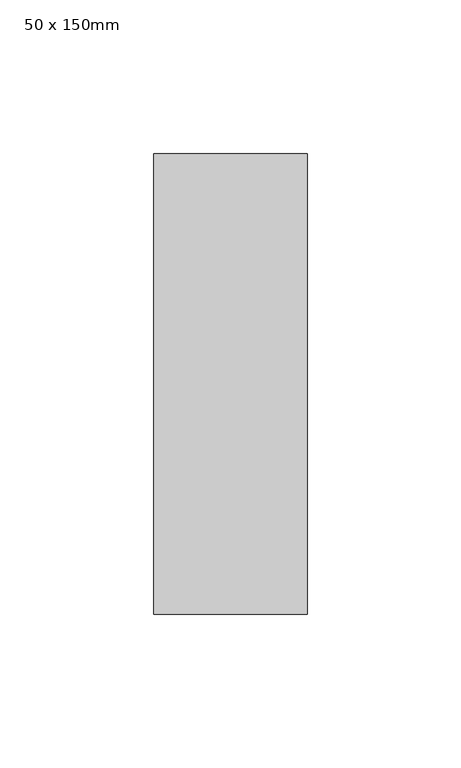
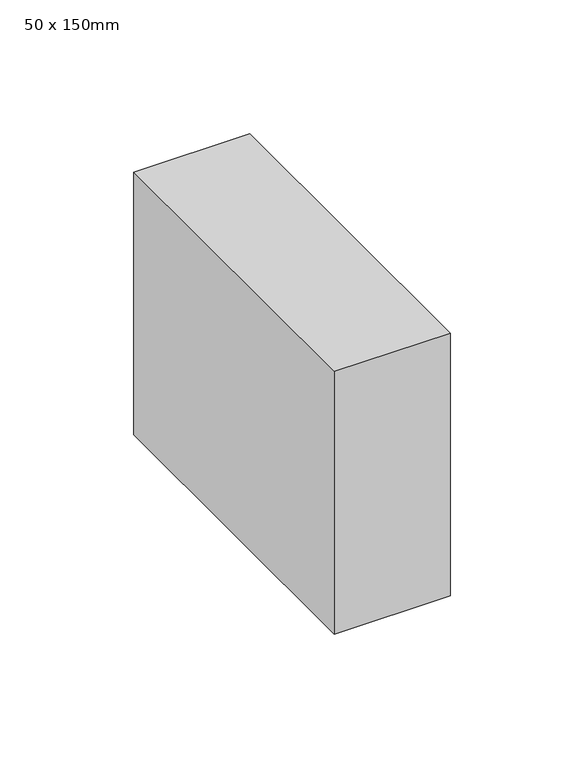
"""IFC4 building model written with IfcOpenShell, lengths in millimetres: member geometry, Прямоугольный импост : 50 x 150mm."""

from ifc_helpers import new_model, si_unit, frame, origin, place, context, project, spatial, polyline, outline, extrude, source, transform, mapped, element, save


def member_50_x_150mm_a3a1db3e(model_context):
    return source(origin(), model_context, "Body", "SweptSolid", [
        extrude(outline(polyline([(0.0, 75.0), (0.0, -75.0), (-50.0, -75.0), (-50.0, 75.0), (0.0, 75.0)])), frame((0.0, 0.0, -120.0), z_axis=(0.0, 0.0, 1.0), x_axis=(1.0, 0.0, 0.0)), (0.0, 0.0, 1.0), 120.0),
    ])


if __name__ == "__main__":
    model = new_model("IFC4")
    model_context = context("Model", 3, world=origin())
    ifc_project = project(units=[si_unit("LENGTHUNIT", "METRE", prefix="MILLI")], contexts=[model_context])
    site = spatial("IfcSite", under=ifc_project)
    building = spatial("IfcBuilding", under=site)
    placement = place(None, origin())
    member_50_x_150mm_shape = member_50_x_150mm_a3a1db3e(model_context)
    element("IfcMember", 1, ObjectType="Прямоугольный импост : 50 x 150mm", at=placement, inside=building, context=model_context, shape_type="MappedRepresentation", body=[
        mapped(member_50_x_150mm_shape, transform((0.0, 0.0, 0.0), x_axis=(1.0, 0.0, 0.0), y_axis=(0.0, 1.0, 0.0), z_axis=(0.0, 0.0, 1.0))),
    ])
    save(model, "model.ifc")
